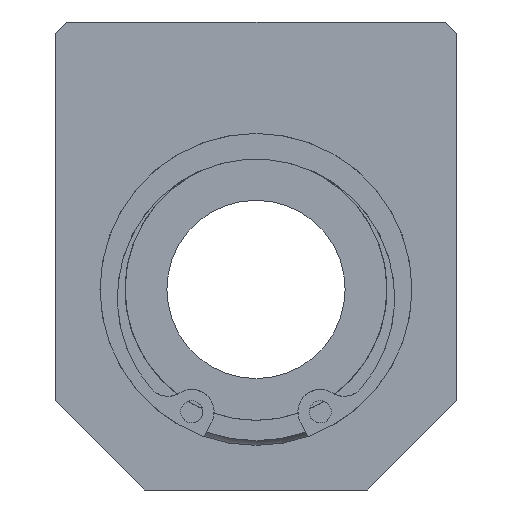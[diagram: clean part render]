
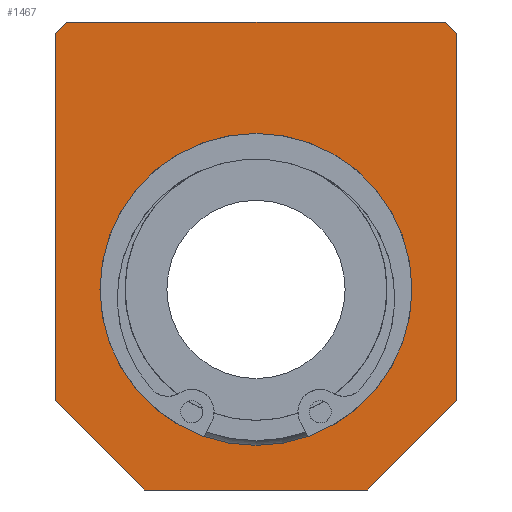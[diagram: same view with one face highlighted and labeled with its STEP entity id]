
A CAD part, left-side view. The second image highlights one B-rep face of the part: STEP entity #1467.
In plain terms, the highlighted planar face has unit normal (-1, 0, 0).
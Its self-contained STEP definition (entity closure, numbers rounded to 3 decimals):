
#1369=CARTESIAN_POINT('',(0.0,-17.,24.));
#1370=VERTEX_POINT('',#1369);
#1377=CARTESIAN_POINT('',(0.0,-18.,23.));
#1378=VERTEX_POINT('',#1377);
#1379=CARTESIAN_POINT('',(0.0,-17.,24.));
#1380=DIRECTION('',(0.0,-0.707,-0.707));
#1381=VECTOR('',#1380,1.414);
#1382=LINE('',#1379,#1381);
#1383=EDGE_CURVE('',#1370,#1378,#1382,.T.);
#1394=CARTESIAN_POINT('',(0.0,0.0,3.));
#1395=DIRECTION('',(1.0,0.0,0.0));
#1396=DIRECTION('',(0.0,0.0,-1.0));
#1397=AXIS2_PLACEMENT_3D('',#1394,#1395,#1396);
#1398=PLANE('',#1397);
#1399=ORIENTED_EDGE('',*,*,#1383,.F.);
#1400=CARTESIAN_POINT('',(0.0,17.,24.));
#1401=VERTEX_POINT('',#1400);
#1402=CARTESIAN_POINT('',(0.0,-17.,24.));
#1403=DIRECTION('',(0.0,1.0,0.0));
#1404=VECTOR('',#1403,34.);
#1405=LINE('',#1402,#1404);
#1406=EDGE_CURVE('',#1370,#1401,#1405,.T.);
#1407=ORIENTED_EDGE('',*,*,#1406,.T.);
#1408=CARTESIAN_POINT('',(0.0,18.,23.));
#1409=VERTEX_POINT('',#1408);
#1410=CARTESIAN_POINT('',(0.0,18.,23.));
#1411=DIRECTION('',(0.0,-0.707,0.707));
#1412=VECTOR('',#1411,1.414);
#1413=LINE('',#1410,#1412);
#1414=EDGE_CURVE('',#1409,#1401,#1413,.T.);
#1415=ORIENTED_EDGE('',*,*,#1414,.F.);
#1416=CARTESIAN_POINT('',(0.0,18.0,-10.));
#1417=VERTEX_POINT('',#1416);
#1418=CARTESIAN_POINT('',(0.0,18.,23.));
#1419=DIRECTION('',(0.0,0.0,-1.0));
#1420=VECTOR('',#1419,33.);
#1421=LINE('',#1418,#1420);
#1422=EDGE_CURVE('',#1409,#1417,#1421,.T.);
#1423=ORIENTED_EDGE('',*,*,#1422,.T.);
#1424=CARTESIAN_POINT('',(0.0,10.,-18.));
#1425=VERTEX_POINT('',#1424);
#1426=CARTESIAN_POINT('',(0.0,10.,-18.));
#1427=DIRECTION('',(0.0,0.707,0.707));
#1428=VECTOR('',#1427,11.314);
#1429=LINE('',#1426,#1428);
#1430=EDGE_CURVE('',#1425,#1417,#1429,.T.);
#1431=ORIENTED_EDGE('',*,*,#1430,.F.);
#1432=CARTESIAN_POINT('',(0.0,-10.,-18.));
#1433=VERTEX_POINT('',#1432);
#1434=CARTESIAN_POINT('',(0.0,10.,-18.));
#1435=DIRECTION('',(0.0,-1.0,0.0));
#1436=VECTOR('',#1435,20.);
#1437=LINE('',#1434,#1436);
#1438=EDGE_CURVE('',#1425,#1433,#1437,.T.);
#1439=ORIENTED_EDGE('',*,*,#1438,.T.);
#1440=CARTESIAN_POINT('',(0.0,-18.0,-10.));
#1441=VERTEX_POINT('',#1440);
#1442=CARTESIAN_POINT('',(0.0,-18.0,-10.));
#1443=DIRECTION('',(0.0,0.707,-0.707));
#1444=VECTOR('',#1443,11.314);
#1445=LINE('',#1442,#1444);
#1446=EDGE_CURVE('',#1441,#1433,#1445,.T.);
#1447=ORIENTED_EDGE('',*,*,#1446,.F.);
#1448=CARTESIAN_POINT('',(0.0,-18.0,-10.));
#1449=DIRECTION('',(0.0,0.0,1.0));
#1450=VECTOR('',#1449,33.);
#1451=LINE('',#1448,#1450);
#1452=EDGE_CURVE('',#1441,#1378,#1451,.T.);
#1453=ORIENTED_EDGE('',*,*,#1452,.T.);
#1454=EDGE_LOOP('',(#1399,#1407,#1415,#1423,#1431,#1439,#1447,#1453));
#1455=FACE_OUTER_BOUND('',#1454,.T.);
#1456=CARTESIAN_POINT('',(0.0,14.,0.));
#1457=VERTEX_POINT('',#1456);
#1458=CARTESIAN_POINT('',(0.0,0.0,0.0));
#1459=DIRECTION('',(1.0,0.0,0.0));
#1460=DIRECTION('',(0.0,-1.0,0.0));
#1461=AXIS2_PLACEMENT_3D('',#1458,#1459,#1460);
#1462=CIRCLE('',#1461,14.);
#1463=EDGE_CURVE('',#1457,#1457,#1462,.T.);
#1464=ORIENTED_EDGE('',*,*,#1463,.T.);
#1465=EDGE_LOOP('',(#1464));
#1466=FACE_BOUND('',#1465,.T.);
#1467=ADVANCED_FACE('',(#1455,#1466),#1398,.F.);
